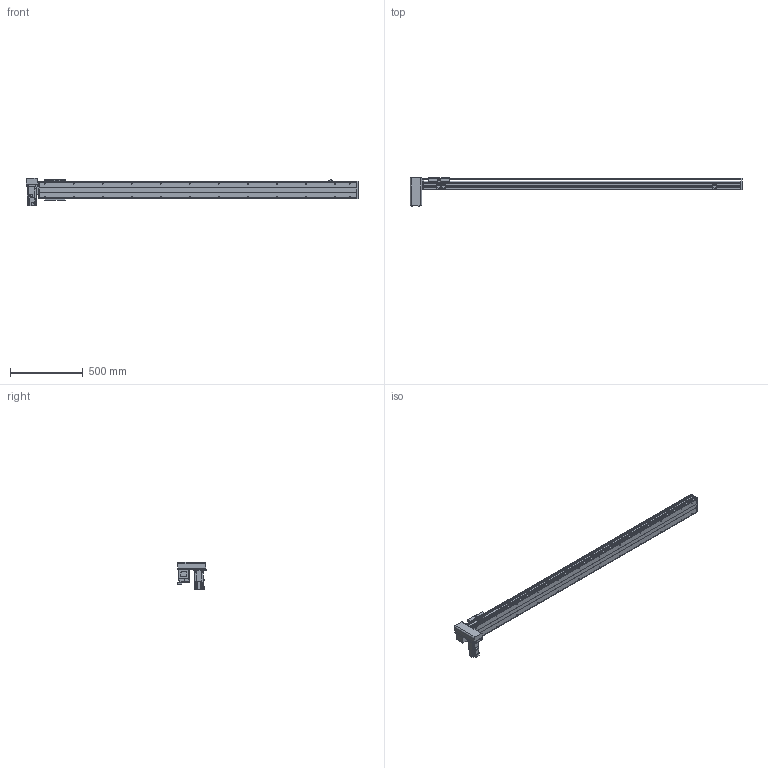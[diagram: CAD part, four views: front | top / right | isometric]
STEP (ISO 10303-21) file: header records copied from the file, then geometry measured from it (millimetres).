
FILE_DESCRIPTION( ( 'STEP AP214' ), '1' );
FILE_NAME( 'x:/temp/worker_27/temp/exporttempdir_6708_200_EsOKj/format_0/PBS120-P40-S1900-RD-T40-C1-N(0).stp', '2022-06-06T00:43:21', ( 'License CC BY-ND 4.0' ), ( 'CADENAS' ), ' ', 'PARTsolutions', ' ' );
FILE_SCHEMA( ( 'AUTOMOTIVE_DESIGN { 1 0 10303 214 1 1 1 1 }' ) );
Length unit declared in the file: millimetre
Products named in the file (7): PBS120-P40-S1900-RD-T40-C1-N(0); _PBS120-S1900()_body; _PBS120T-RD_motors; _T40-p1; _PBS120_sliser; _PBS120_plant; _PBS120_sensor
Assembly tree (8 placements, depth 2):
  PBS120-P40-S1900-RD-T40-C1-N(0)
    _PBS120-S1900()_body
    _PBS120T-RD_motors
    _T40-p1
    _PBS120_sliser
    _PBS120_plant
    _PBS120_sensor  x3
Bounding box: 2286 x 196 x 189.7 mm (x, y, z)
Volume: 8890646.9 mm3; surface area: 1810167.7 mm2
Topology: 8 solids, 8 shells, 852 faces, 2196 edges, 1411 vertices
Faces by surface type: plane 557, cylinder 237, cone 56, torus 2
Full cylindrical faces by diameter (mm): 2.459 x6, 3.242 x4, 4 x2, 4.134 x4, 4.5 x10, 4.917 x28, 5.5 x11, 6 x2, 6.6 x1, 7 x2, 8.5 x4, 9 x4, 12 x1, 14 x1, 30 x2, 40 x1, 50 x2
Entity records: 27996 total; most frequent: DIRECTION 3836, CARTESIAN_POINT 3749, ORIENTED_EDGE 3550, EDGE_CURVE 1775, AXIS2_PLACEMENT_3D 1304, LINE 1228, VECTOR 1228, VERTEX_POINT 1217
